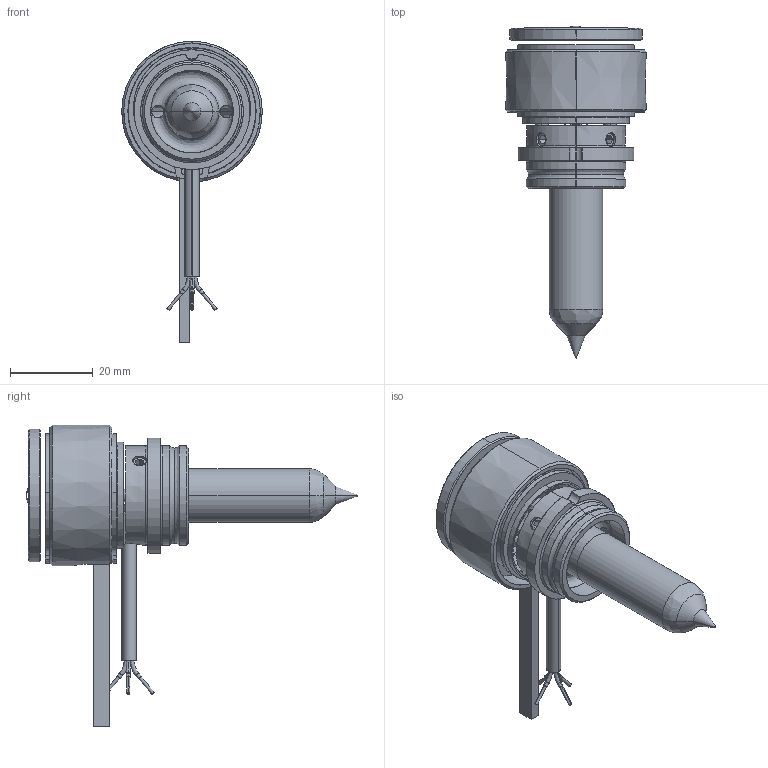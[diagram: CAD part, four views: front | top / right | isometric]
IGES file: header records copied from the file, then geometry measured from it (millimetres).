
Start section: SolidWorks IGES file using analytic representation for surfaces
Global section: file name: C:\Documents and Settings\ws-20\Desktop\TEM\UGGS2520-S-0 [Øf-0.25].IGS; native system: SolidWorks 2012; preprocessor: SolidWorks 2012; author: ws-20; date: 120516.092921; units: millimetre
Bounding box: 34 x 80.3 x 72.9 mm (x, y, z)
Surface area: 15874.7 mm2 (no closed solid volume)
Topology: 0 solids, 0 shells, 208 faces, 2969 edges, 2963 vertices
Faces by surface type: revolution 131, bspline 77
